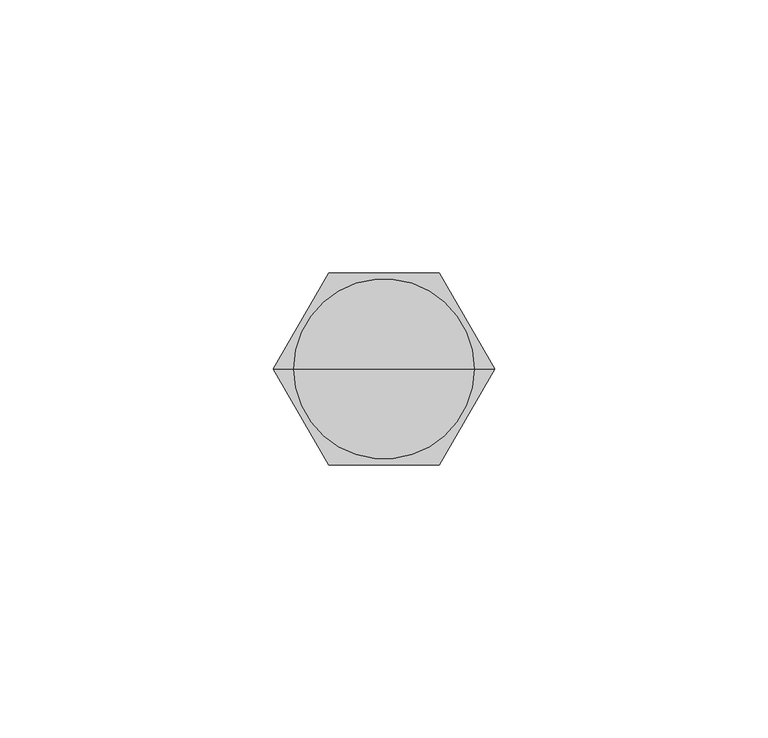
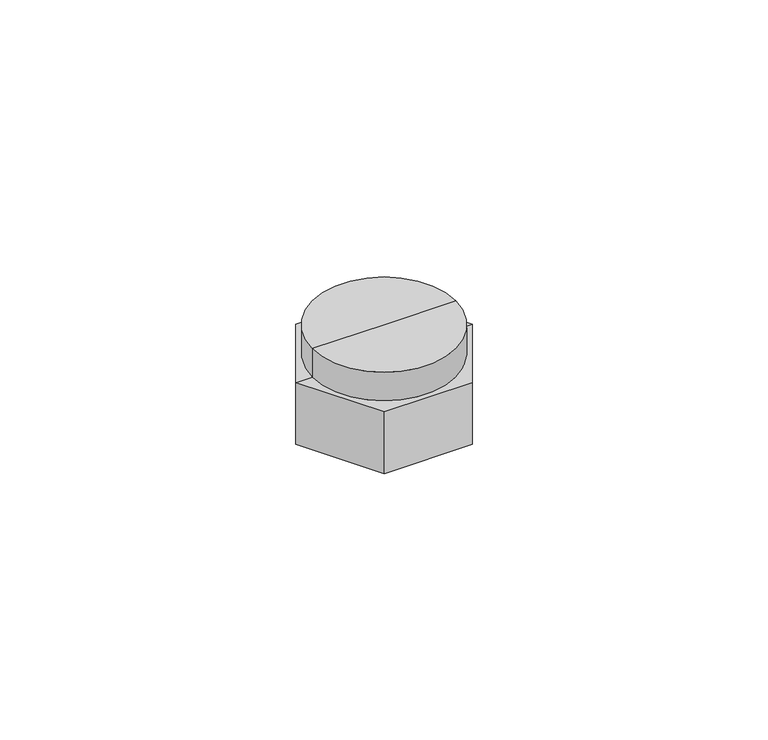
"""IFC4 building model written with IfcOpenShell, lengths in millimetres: proxy geometry, 400_56_KOMF_ventiel_handmatig_QTZ : 400_56_KOMF_ventiel_handmatig."""

from ifc_helpers import new_model, si_unit, frame, origin, place, context, project, spatial, circle_curve, source, transform, mapped, element, save
from ifc_brep_helpers import plane_surface, cylinder_surface, advanced_brep


def generic_models_7ec0413a(model_context):
    return source(origin(), model_context, "Body", "AdvancedBrep", [
        advanced_brep(
        [(20.3094011, 0.0, 15.0), (20.3094011, 0.0, 0.0), (10.1547005, 17.5884573, 0.0), (10.1547005, 17.5884573, 15.0), (10.1547005, -17.5884573, 15.0), (10.1547005, -17.5884573, 0.0), (-10.1547005, -17.5884573, 15.0), (-10.1547005, -17.5884573, 0.0), (-20.3094011, 0.0, 15.0), (-20.3094011, 0.0, 0.0), (-10.1547005, 17.5884573, 15.0), (-10.1547005, 17.5884573, 0.0), (0.0, 0.0, 22.0), (16.5, 0.0, 22.0), (-16.5, 0.0, 22.0), (0.0, 0.0, 0.0), (-16.5, 0.0, 15.0), (16.5, 0.0, 15.0)],
        [
            (0, 1),
            (1, 2),
            (2, 3),
            (3, 0),
            (0, 4),
            (4, 5),
            (5, 1),
            (4, 6),
            (6, 7),
            (7, 5),
            (8, 9),
            (9, 7),
            (6, 8),
            (8, 10),
            (10, 11),
            (11, 9),
            (2, 11),
            (10, 3),
            (12, 13),
            (13, 14, circle_curve(frame((0.0, 0.0, 22.0), z_axis=(0.0, 0.0, 1.0), x_axis=(1.0, 0.0, 0.0)), 16.5)),
            (14, 12),
            (14, 13, circle_curve(frame((0.0, 0.0, 22.0), z_axis=(0.0, 0.0, 1.0), x_axis=(1.0, 0.0, 0.0)), 16.5)),
            (1, 15),
            (15, 9),
            (16, 17, circle_curve(frame((0.0, 0.0, 15.0), z_axis=(0.0, 0.0, -1.0), x_axis=(1.0, 0.0, 0.0)), 16.5)),
            (17, 0),
            (8, 16),
            (17, 16, circle_curve(frame((0.0, 0.0, 15.0), z_axis=(0.0, 0.0, -1.0), x_axis=(1.0, 0.0, 0.0)), 16.5)),
            (13, 17),
            (16, 14),
        ],
        [
            plane_surface(frame((10.1547005, 17.5884573, 250.0), z_axis=(0.8660254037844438, 0.49999999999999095, 0.0), x_axis=(0.0, 0.0, -1.0))),
            plane_surface(frame((20.3094011, 0.0, 250.0), z_axis=(0.8660254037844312, -0.5000000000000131, 0.0), x_axis=(0.0, 0.0, -1.0))),
            plane_surface(frame((10.1547005, -17.5884573, 250.0), z_axis=(0.0, -1.0, 0.0), x_axis=(0.0, 0.0, -1.0))),
            plane_surface(frame((-10.1547005, -17.5884573, 250.0), z_axis=(-0.8660254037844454, -0.49999999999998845, 0.0), x_axis=(0.0, 0.0, -1.0))),
            plane_surface(frame((-20.3094011, 0.0, 250.0), z_axis=(-0.8660254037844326, 0.5000000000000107, 0.0), x_axis=(0.0, 0.0, -1.0))),
            plane_surface(frame((-10.1547005, 17.5884573, 250.0), z_axis=(0.0, 1.0, 0.0), x_axis=(0.0, 0.0, -1.0))),
            plane_surface(frame((0.0, 0.0, 22.0), z_axis=(0.0, 0.0, 1.0), x_axis=(1.0, 0.0, 0.0))),
            plane_surface(frame((0.0, 0.0, 0.0), z_axis=(0.0, 0.0, -1.0), x_axis=(1.0, 0.0, 0.0))),
            plane_surface(frame((0.0, 0.0, 15.0), z_axis=(0.0, 0.0, 1.0), x_axis=(1.0, 0.0, 0.0))),
            cylinder_surface(frame((0.0, 0.0, -39.5788383), z_axis=(0.0, 0.0, 1.0), x_axis=(1.0, 0.0, 0.0)), 16.5),
        ],
        [
            (0, [[1, 2, 3, 4]]),
            (1, [[-1, 5, 6, 7]]),
            (2, [[-6, 8, 9, 10]]),
            (3, [[11, 12, -9, 13]]),
            (4, [[-11, 14, 15, 16]]),
            (5, [[-3, 17, -15, 18]]),
            (6, [[19, 20, 21]]),
            (6, [[-19, -21, 22]]),
            (7, [[23, 24, -16, -17, -2]]),
            (7, [[-23, -7, -10, -12, -24]]),
            (8, [[25, 26, -4, -18, -14, 27]]),
            (8, [[28, -27, -13, -8, -5, -26]]),
            (9, [[-20, 29, -25, 30]]),
            (9, [[-22, -30, -28, -29]]),
        ],
    ),
    ])


if __name__ == "__main__":
    model = new_model("IFC4")
    model_context = context("Model", 3, world=origin())
    ifc_project = project(units=[si_unit("LENGTHUNIT", "METRE", prefix="MILLI")], contexts=[model_context])
    site = spatial("IfcSite", under=ifc_project)
    building = spatial("IfcBuilding", under=site)
    placement = place(None, origin())
    generic_models_shape = generic_models_7ec0413a(model_context)
    element("IfcBuildingElementProxy", 1, Name="400_56_KOMF_ventiel_handmatig_QTZ : 400_56_KOMF_ventiel_handmatig", ObjectType="400_56_KOMF_ventiel_handmatig_QTZ : 400_56_KOMF_ventiel_handmatig", at=placement, inside=building, context=model_context, shape_type="MappedRepresentation", body=[
        mapped(generic_models_shape, transform((0.0, 0.0, 0.0), x_axis=(1.0, 0.0, 0.0), y_axis=(0.0, 1.0, 0.0), z_axis=(0.0, 0.0, 1.0))),
    ])
    save(model, "model.ifc")
